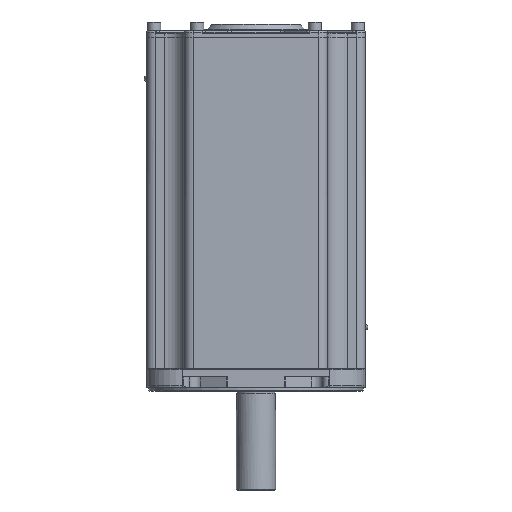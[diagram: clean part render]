
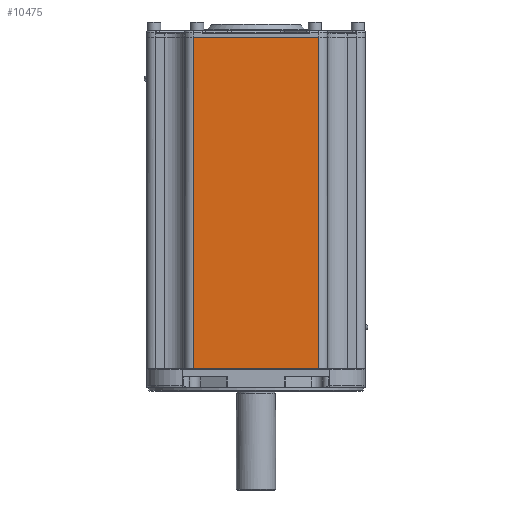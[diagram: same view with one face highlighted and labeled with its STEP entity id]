
A CAD part, front view. The second image highlights one B-rep face of the part: STEP entity #10475.
In plain terms, the highlighted planar face has unit normal (0, -1, 0).
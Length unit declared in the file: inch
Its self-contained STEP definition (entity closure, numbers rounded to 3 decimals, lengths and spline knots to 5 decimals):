
#9955=CARTESIAN_POINT('',(-2.65,-4.625,14.4));
#9956=VERTEX_POINT('',#9955);
#9963=CARTESIAN_POINT('',(2.65,-4.625,14.4));
#9964=VERTEX_POINT('',#9963);
#9965=CARTESIAN_POINT('',(2.65,-4.625,14.4));
#9966=DIRECTION('',(-1.0,0.0,0.0));
#9967=VECTOR('',#9966,5.3);
#9968=LINE('',#9965,#9967);
#9969=EDGE_CURVE('',#9964,#9956,#9968,.T.);
#10424=CARTESIAN_POINT('',(2.65,-4.625,0.4));
#10425=VERTEX_POINT('',#10424);
#10426=CARTESIAN_POINT('',(2.65,-4.625,14.4));
#10427=DIRECTION('',(0.0,0.0,-1.0));
#10428=VECTOR('',#10427,14.);
#10429=LINE('',#10426,#10428);
#10430=EDGE_CURVE('',#9964,#10425,#10429,.T.);
#10452=CARTESIAN_POINT('',(3.025,-4.625,0.4));
#10453=DIRECTION('',(0.0,-1.0,0.0));
#10454=DIRECTION('',(0.0,0.0,-1.0));
#10455=AXIS2_PLACEMENT_3D('',#10452,#10453,#10454);
#10456=PLANE('',#10455);
#10457=ORIENTED_EDGE('',*,*,#9969,.T.);
#10458=CARTESIAN_POINT('',(-2.65,-4.625,0.4));
#10459=VERTEX_POINT('',#10458);
#10460=CARTESIAN_POINT('',(-2.65,-4.625,0.4));
#10461=DIRECTION('',(0.0,0.0,1.0));
#10462=VECTOR('',#10461,14.);
#10463=LINE('',#10460,#10462);
#10464=EDGE_CURVE('',#10459,#9956,#10463,.T.);
#10465=ORIENTED_EDGE('',*,*,#10464,.F.);
#10466=CARTESIAN_POINT('',(-2.65,-4.625,0.4));
#10467=DIRECTION('',(1.0,0.0,0.0));
#10468=VECTOR('',#10467,5.3);
#10469=LINE('',#10466,#10468);
#10470=EDGE_CURVE('',#10459,#10425,#10469,.T.);
#10471=ORIENTED_EDGE('',*,*,#10470,.T.);
#10472=ORIENTED_EDGE('',*,*,#10430,.F.);
#10473=EDGE_LOOP('',(#10457,#10465,#10471,#10472));
#10474=FACE_OUTER_BOUND('',#10473,.T.);
#10475=ADVANCED_FACE('',(#10474),#10456,.T.);
